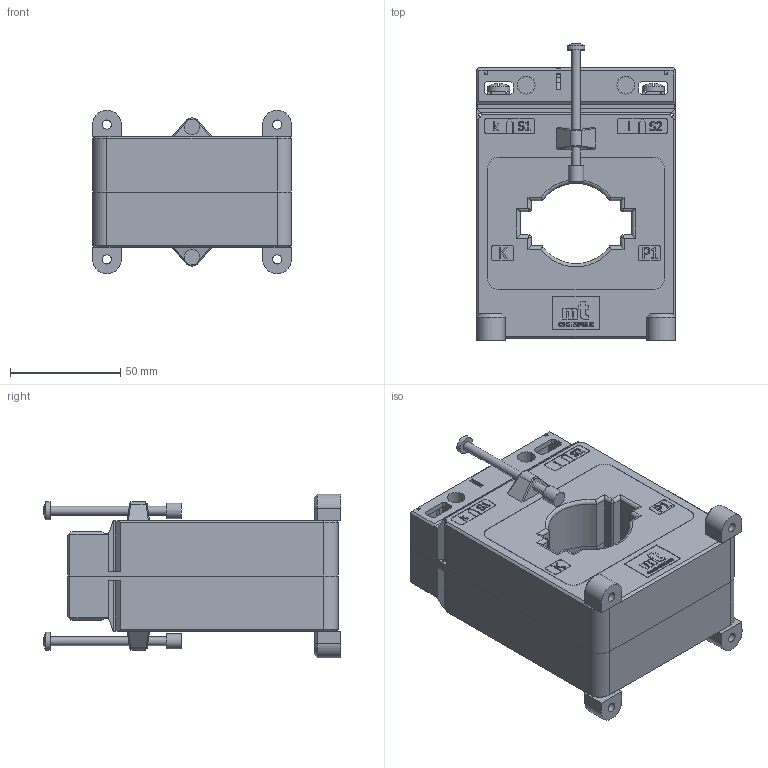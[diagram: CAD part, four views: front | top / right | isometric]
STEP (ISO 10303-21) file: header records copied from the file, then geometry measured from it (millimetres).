
FILE_DESCRIPTION(/* description */ (''),/* implementation_level */ '2;1');
FILE_NAME(/* name */ 'CLB 5.92.step',/* time_stamp */ '2024-10-12T13:54:44+02:00',/* author */ ('peter'),/* organization */ (''),/* preprocessor_version */ 'ST-DEVELOPER v20',/* originating_system */ 'Autodesk Inventor 2025',/* authorisation */ '');
FILE_SCHEMA (('AUTOMOTIVE_DESIGN { 1 0 10303 214 3 1 1 }'));
Length unit declared in the file: millimetre
Products named in the file (11): Current transformer CLB 5.92; Front plastic case CLB 5.92; Back plastic case CLB 5.92; Tape label CLB 5.92; Secondary terminal 28 CLB; Secondary terminal cover 37B CLB; Plastic mounting foot; Rivet 20; Insulating cap; Screw M5x8; Screw 4x60
Assembly tree (23 placements, depth 2):
  Current transformer CLB 5.92
    Front plastic case CLB 5.92
    Back plastic case CLB 5.92
    Tape label CLB 5.92
    Secondary terminal 28 CLB  x2
    Secondary terminal cover 37B CLB  x2
    Plastic mounting foot  x4
    Rivet 20  x4
    Insulating cap  x2
    Screw M5x8  x4
    Screw 4x60  x2
Bounding box: 90 x 134.47 x 74 mm (x, y, z)
Volume: 454375.4 mm3; surface area: 91582.8 mm2
Topology: 23 solids, 27 shells, 1846 faces, 4932 edges, 3230 vertices
Faces by surface type: plane 1143, bspline 403, cylinder 240, cone 38, torus 12, sphere 10
Full cylindrical faces by diameter (mm): 1.5 x4, 2.4 x4, 2.95 x2, 3 x6, 3.5 x2, 4 x8, 4.1 x4, 4.134 x4, 4.2 x4, 4.5 x4, 5 x8, 7 x2, 8 x18, 9 x4, 10 x4
Entity records: 51591 total; most frequent: CARTESIAN_POINT 14272, ORIENTED_EDGE 8404, DIRECTION 6091, EDGE_CURVE 4202, LINE 2999, VECTOR 2999, VERTEX_POINT 2761, EDGE_LOOP 1699
